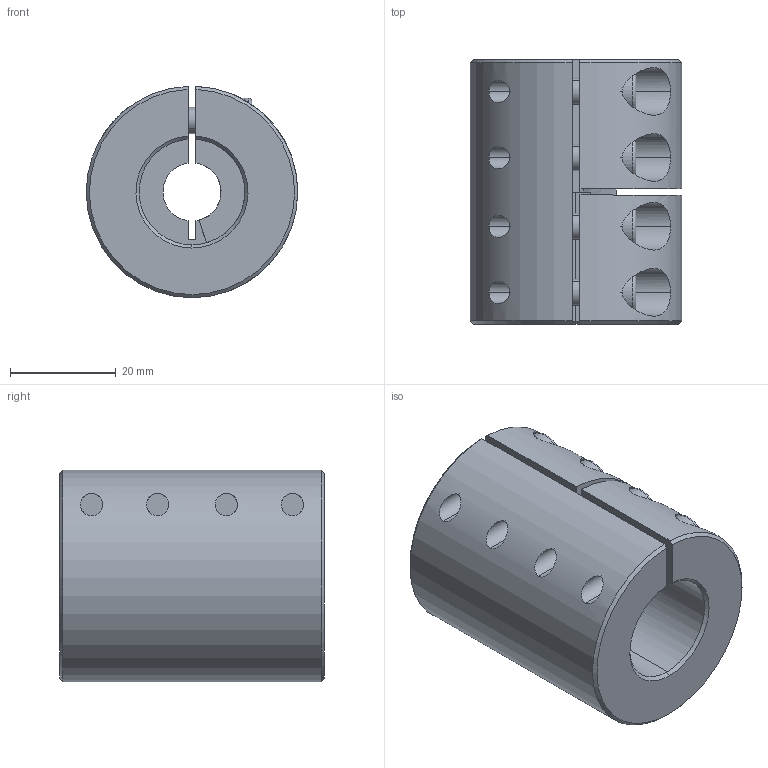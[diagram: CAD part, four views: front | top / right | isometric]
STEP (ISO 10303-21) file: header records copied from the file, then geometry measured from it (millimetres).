
FILE_DESCRIPTION (( 'STEP AP214' ), '1' );
FILE_NAME ('LL-B-D40L50-11-20½¨Ä£.STEP', '2022-07-22T00:21:05', ( '' ), ( '' ), 'SwSTEP 2.0', 'SolidWorks 2022', '' );
FILE_SCHEMA (( 'AUTOMOTIVE_DESIGN' ));
Length unit declared in the file: millimetre
Products named in the file (1): LL-B-D40L50-11-20膘耀
Bounding box: 40 x 50 x 39.99 mm (x, y, z)
Volume: 49518.2 mm3; surface area: 15527 mm2
Topology: 1 solids, 1 shells, 181 faces, 459 edges, 288 vertices
Faces by surface type: plane 87, cylinder 71, cone 15, torus 8
Entity records: 5971 total; most frequent: CARTESIAN_POINT 1511, DIRECTION 967, ORIENTED_EDGE 902, EDGE_CURVE 451, AXIS2_PLACEMENT_3D 376, VERTEX_POINT 288, LINE 215, VECTOR 215
